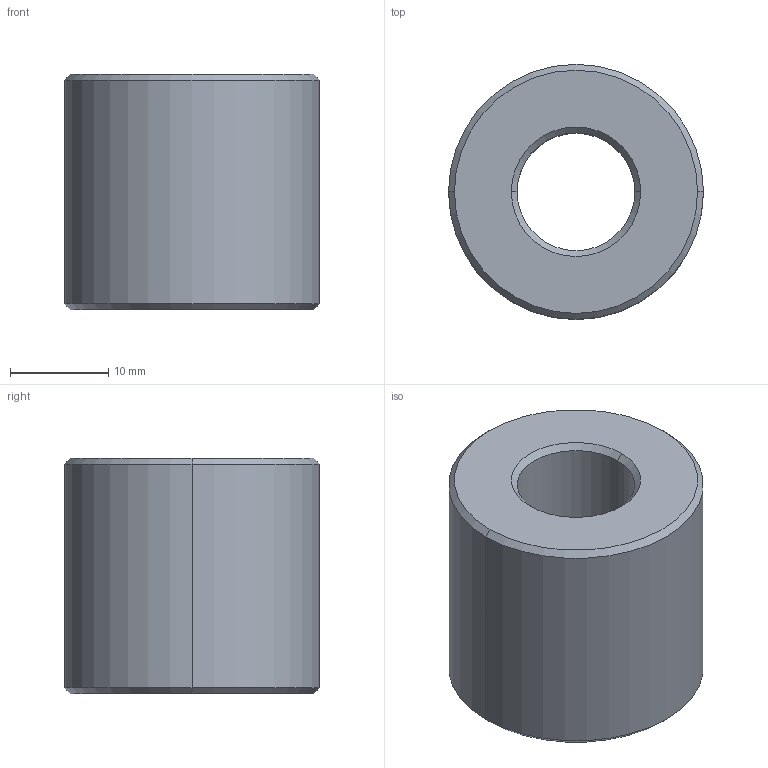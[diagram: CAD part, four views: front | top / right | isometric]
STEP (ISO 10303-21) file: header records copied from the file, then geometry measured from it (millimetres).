
FILE_DESCRIPTION (( 'STEP AP203' ), '1' );
FILE_NAME ('L1330.R12-06.step', '2024-10-24T09:25:27', ( '' ), ( '' ), 'SwSTEP 2.0', 'SolidWorks 2019', '' );
FILE_SCHEMA (( 'CONFIG_CONTROL_DESIGN' ));
Length unit declared in the file: millimetre
Products named in the file (1): L1330.R12-06
Bounding box: 26 x 26 x 24 mm (x, y, z)
Volume: 9985 mm3; surface area: 3616.9 mm2
Topology: 1 solids, 1 shells, 14 faces, 28 edges, 16 vertices
Faces by surface type: cone 8, cylinder 4, plane 2
Entity records: 445 total; most frequent: DIRECTION 74, CARTESIAN_POINT 59, ORIENTED_EDGE 56, AXIS2_PLACEMENT_3D 31, EDGE_CURVE 28, VERTEX_POINT 16, CIRCLE 16, EDGE_LOOP 16
